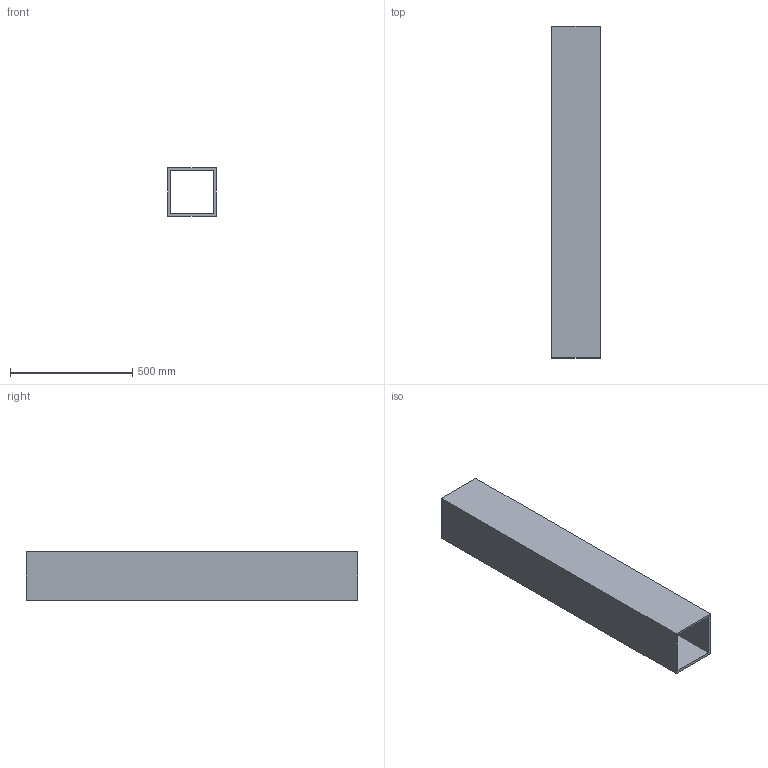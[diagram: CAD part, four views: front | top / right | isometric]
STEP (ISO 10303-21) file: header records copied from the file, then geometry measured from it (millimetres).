
FILE_DESCRIPTION(('Open CASCADE Model'),'2;1');
FILE_NAME('Open CASCADE Shape Model','2026-10-19T10:06:06',('Author'),( 'Open CASCADE'),'Open CASCADE STEP processor 7.8','Open CASCADE 7.8' ,'Unknown');
FILE_SCHEMA(('AUTOMOTIVE_DESIGN { 1 0 10303 214 1 1 1 1 }'));
Length unit declared in the file: millimetre
Products named in the file (1): Open CASCADE STEP translator 7.8 5
Bounding box: 200 x 1360 x 200 mm (x, y, z)
Volume: 10336000 mm3; surface area: 2082400 mm2
Topology: 1 solids, 1 shells, 10 faces, 24 edges, 16 vertices
Faces by surface type: plane 10
Entity records: 598 total; most frequent: CARTESIAN_POINT 115, DIRECTION 78, LINE 56, VECTOR 56, ORIENTED_EDGE 48, PCURVE 48, DEFINITIONAL_REPRESENTATION 48, EDGE_CURVE 24
